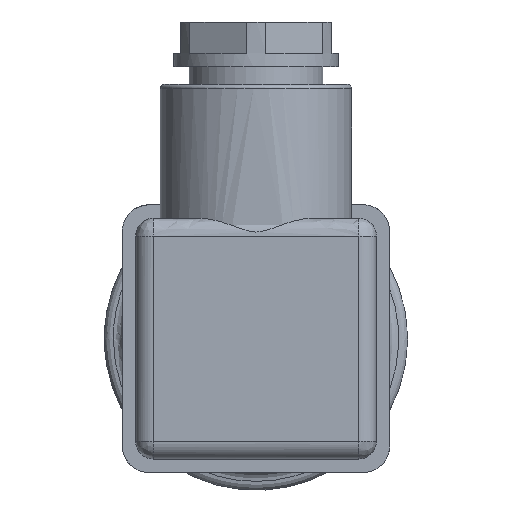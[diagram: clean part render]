
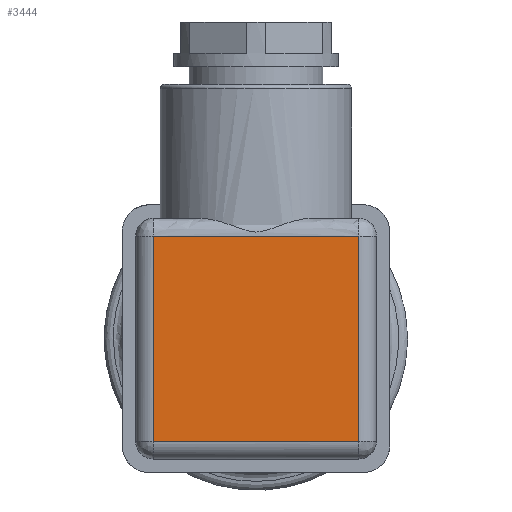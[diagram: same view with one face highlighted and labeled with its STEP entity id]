
A CAD part, left-side view. The second image highlights one B-rep face of the part: STEP entity #3444.
In plain terms, the highlighted free-form (B-spline) face has degree [1, 1] with [2, 2] control points.
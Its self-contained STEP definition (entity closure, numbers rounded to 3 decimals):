
#2912=CARTESIAN_POINT('V98',(-65.3,11.5,
   11.5));
#2913=VERTEX_POINT('V98',#2912);
#2977=CARTESIAN_POINT('V104',(-65.3,11.5,
   -11.5));
#2978=VERTEX_POINT('V104',#2977);
#3037=CARTESIAN_POINT('V102',(-65.3,
   -11.5,-11.5));
#3038=VERTEX_POINT('V102',#3037);
#3039=CARTESIAN_POINT('E189',(-65.3,11.5,
   -11.5));
#3040=CARTESIAN_POINT('E189',(-65.3,
   -11.5,-11.5));
#3041=B_SPLINE_CURVE_WITH_KNOTS('E189',1,(#3039,#3040),
   .POLYLINE_FORM.,.F.,.U.,(2,2),(2.637,
   9.958),.UNSPECIFIED.);
#3042=EDGE_CURVE('E189',#2978,#3038,#3041,.T.);
#3131=CARTESIAN_POINT('V96',(-65.3,-11.5,
   11.5));
#3132=VERTEX_POINT('V96',#3131);
#3133=CARTESIAN_POINT('E182',(-65.3,
   -11.5,-11.5));
#3134=CARTESIAN_POINT('E182',(-65.3,
   -11.5,11.5));
#3135=B_SPLINE_CURVE_WITH_KNOTS('E182',1,(#3133,#3134),
   .POLYLINE_FORM.,.F.,.U.,(2,2),(2.637,
   9.958),.UNSPECIFIED.);
#3136=EDGE_CURVE('E182',#3038,#3132,#3135,.T.);
#3420=CARTESIAN_POINT('E185',(-65.3,11.5,
   11.5));
#3421=CARTESIAN_POINT('E185',(-65.3,11.5,
   -11.5));
#3422=B_SPLINE_CURVE_WITH_KNOTS('E185',1,(#3420,#3421),
   .POLYLINE_FORM.,.F.,.U.,(2,2),(2.0,9.321),
   .UNSPECIFIED.);
#3423=EDGE_CURVE('E185',#2913,#2978,#3422,.T.);
#3429=CARTESIAN_POINT('F99',(-65.3,14.175,
   -14.175));
#3430=CARTESIAN_POINT('F99',(-65.3,-14.175,
   -14.175));
#3431=CARTESIAN_POINT('F99',(-65.3,14.175,
   14.175));
#3432=CARTESIAN_POINT('F99',(-65.3,-14.175,
   14.175));
#3433=QUASI_UNIFORM_SURFACE('F99',1,1,((#3429,#3431),(#3430,#3432))
,.PLANE_SURF.,.F.,.F.,.U.);
#3434=CARTESIAN_POINT('E172',(-65.3,
   -11.5,11.5));
#3435=CARTESIAN_POINT('E172',(-65.3,11.5,
   11.5));
#3436=B_SPLINE_CURVE_WITH_KNOTS('E172',1,(#3434,#3435),
   .POLYLINE_FORM.,.F.,.U.,(2,2),(2.0,9.321),
   .UNSPECIFIED.);
#3437=EDGE_CURVE('E172',#3132,#2913,#3436,.T.);
#3438=ORIENTED_EDGE('E172',*,*,#3437,.T.);
#3439=ORIENTED_EDGE('E185',*,*,#3423,.T.);
#3440=ORIENTED_EDGE('E189',*,*,#3042,.T.);
#3441=ORIENTED_EDGE('E182',*,*,#3136,.T.);
#3442=EDGE_LOOP('F99',(#3438,#3439,#3440,#3441));
#3443=FACE_OUTER_BOUND('F99',#3442,.T.);
#3444=ADVANCED_FACE('F99',(#3443),#3433,.T.);
